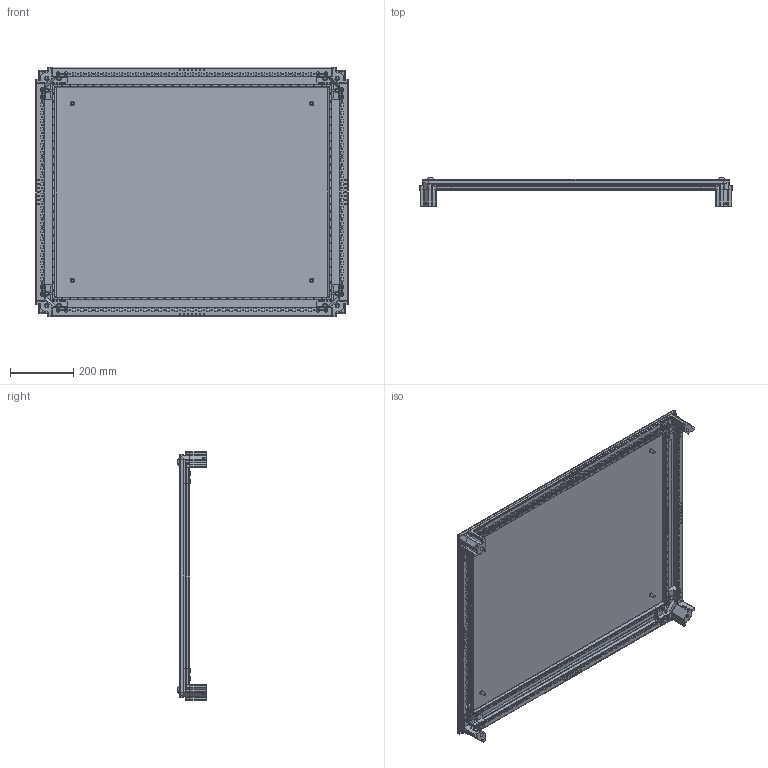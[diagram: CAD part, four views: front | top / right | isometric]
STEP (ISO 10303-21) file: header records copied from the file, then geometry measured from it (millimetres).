
FILE_DESCRIPTION(('STEP AP203'), '1');
FILE_NAME('Êðûøà è îñíîâàíèå Ø800õÃ1000 ìì IP55 OptiBox M 419600 ÊÝÀÇ', '', ('UNSPECIFIED'), ('UNSPECIFIED'), 'C3D Converter', 'C3D Toolkit', '');
FILE_SCHEMA(('CONFIG_CONTROL_DESIGN'));
Length unit declared in the file: millimetre
Bounding box: 992 x 93 x 792 mm (x, y, z)
Volume: 2882260.1 mm3; surface area: 2764180.8 mm2
Topology: 34 solids, 34 shells, 2659 faces, 6924 edges, 4376 vertices
Faces by surface type: plane 1355, cylinder 1024, cone 220, sphere 28, bspline 24, torus 8
Full cylindrical faces by diameter (mm): 0.75 x4, 1 x4, 4.6 x240, 5 x60, 5.6 x16, 6 x40, 7 x4, 7.3 x16, 8 x4, 9 x16, 9.3 x4, 10.2 x4, 12 x4, 13 x24, 14 x12, 20 x4, 21 x4
Entity records: 88756 total; most frequent: CARTESIAN_POINT 23004, DIRECTION 13284, ORIENTED_EDGE 12640, EDGE_CURVE 6320, AXIS2_PLACEMENT_3D 4628, VERTEX_POINT 4376, EDGE_LOOP 4244, LINE 4028
